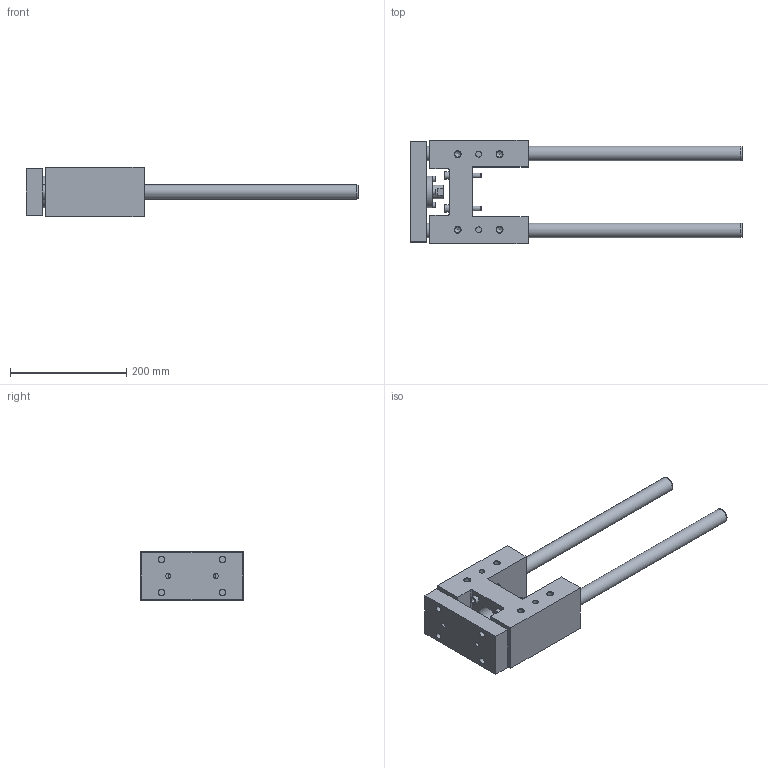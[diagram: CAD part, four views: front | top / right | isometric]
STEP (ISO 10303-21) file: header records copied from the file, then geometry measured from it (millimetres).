
FILE_DESCRIPTION( ( 'STEP AP214' ), '1' );
FILE_NAME( 'U:/Etudes/Top Solid/BIBLIO 3D AVM/TOP/PNEUMATIQUE/GUIDAGES/Type 32 (en H)/R_Renforcée/327R6_30.step', '2005-05-27T09:06:51', ( ' ' ), ( ' ' ), 'XStep 1.0', ' ', ' ' );
FILE_SCHEMA( ( 'automotive_design' ) );
Length unit declared in the file: metre
Products named in the file (2): 1; 2
Bounding box: 571 x 178 x 85 mm (x, y, z)
Volume: 2328759.9 mm3; surface area: 305031.2 mm2
Topology: 2 solids, 7 shells, 209 faces, 484 edges, 321 vertices
Faces by surface type: plane 118, cylinder 70, cone 21
Full cylindrical faces by diameter (mm): 6 x8, 6.5 x4, 8 x10, 8.376 x4, 9 x4, 10 x6, 10.106 x8, 11 x4, 13 x4, 14.376 x2, 18 x4, 24 x1, 25 x4, 26 x1, 34 x1, 37 x1, 45 x1, 55 x1
Entity records: 7089 total; most frequent: CARTESIAN_POINT 1103, DIRECTION 900, ORIENTED_EDGE 696, EDGE_LOOP 358, AXIS2_PLACEMENT_3D 349, EDGE_CURVE 348, VERTEX_POINT 280, FACE_OUTER_BOUND 277
